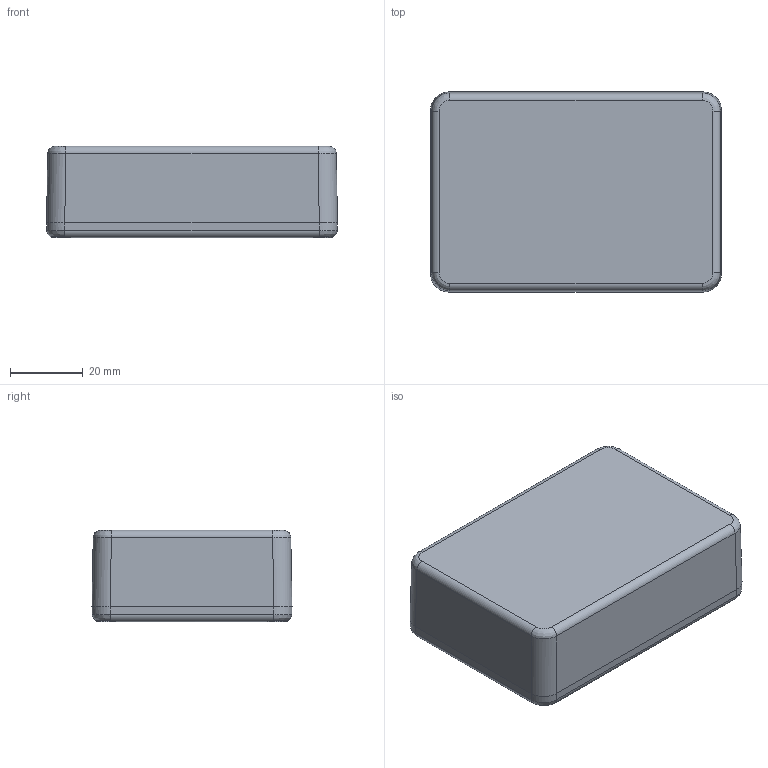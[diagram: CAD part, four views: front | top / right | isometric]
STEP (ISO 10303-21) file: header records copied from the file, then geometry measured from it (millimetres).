
FILE_DESCRIPTION(/* description */ (''),/* implementation_level */ '2;1');
FILE_NAME(/* name */ 'E:\Eng\Customer Service\Drawings\new 1550\STEP\1550P\1550P.iam.stp',/* time_stamp */ '2014-10-29T10:14:21-04:00',/* author */ ('fwarzocha'),/* organization */ (''),/* preprocessor_version */ 'ST-DEVELOPER v15.2',/* originating_system */ 'Autodesk Inventor 2014',/* authorisation */ '');
FILE_SCHEMA (('AUTOMOTIVE_DESIGN { 1 0 10303 214 3 1 1 }'));
Length unit declared in the file: millimetre
Products named in the file (4): 1550P BOX; 1550P LID; SC1550 (screw M3.5-0.6X 12mm FH); 1550P
Bounding box: 80 x 55 x 25.1 mm (x, y, z)
Volume: 27043.2 mm3; surface area: 30958.6 mm2
Topology: 6 solids, 6 shells, 861 faces, 2300 edges, 1500 vertices
Faces by surface type: plane 349, bspline 338, cylinder 74, cone 66, torus 34
Full cylindrical faces by diameter (mm): 3 x4, 3.43 x4, 4.1 x4
Entity records: 39652 total; most frequent: CARTESIAN_POINT 22282, ORIENTED_EDGE 4102, DIRECTION 2602, EDGE_CURVE 2051, VERTEX_POINT 1351, LINE 1072, VECTOR 1072, EDGE_LOOP 874
